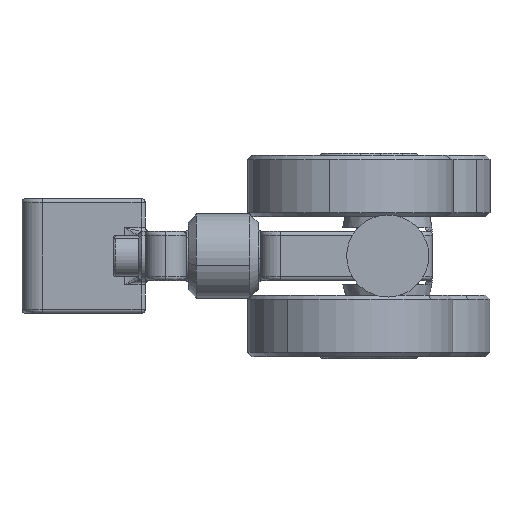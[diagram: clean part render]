
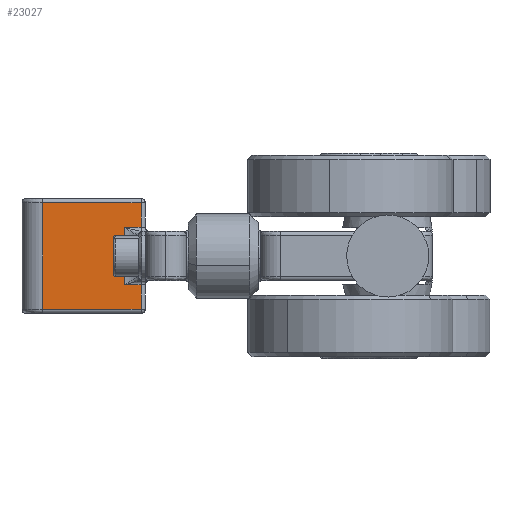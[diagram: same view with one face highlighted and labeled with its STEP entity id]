
A CAD part, left-side view. The second image highlights one B-rep face of the part: STEP entity #23027.
In plain terms, the highlighted planar face has unit normal (-1, 0, 0).
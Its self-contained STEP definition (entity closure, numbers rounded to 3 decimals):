
#1478 = CARTESIAN_POINT ( 'NONE',  ( 25., 109.256, 7. ) ) ;
#3511 = EDGE_CURVE ( 'NONE', #28250, #45553, #43561, .T. ) ;
#5006 = ORIENTED_EDGE ( 'NONE', *, *, #16284, .F. ) ;
#5873 = LINE ( 'NONE', #24484, #40792 ) ;
#6441 = VECTOR ( 'NONE', #41953, 1000. ) ;
#6757 = CARTESIAN_POINT ( 'NONE',  ( 25., 109.256, 1. ) ) ;
#7895 = DIRECTION ( 'NONE',  ( 0., 1., 0. ) ) ;
#8108 = VERTEX_POINT ( 'NONE', #48087 ) ;
#8881 = DIRECTION ( 'NONE',  ( 0., 0., -1. ) ) ;
#12473 = VECTOR ( 'NONE', #51662, 1000. ) ;
#13282 = VECTOR ( 'NONE', #42765, 1000. ) ;
#16284 = EDGE_CURVE ( 'NONE', #8108, #51747, #24927, .T. ) ;
#16882 = CARTESIAN_POINT ( 'NONE',  ( 25., 71., -18.5 ) ) ;
#17451 = LINE ( 'NONE', #1478, #6441 ) ;
#18322 = DIRECTION ( 'NONE',  ( 0., 0., -1. ) ) ;
#18813 = EDGE_CURVE ( 'NONE', #37022, #8108, #46046, .T. ) ;
#20745 = EDGE_CURVE ( 'NONE', #51747, #28250, #5873, .T. ) ;
#21099 = EDGE_CURVE ( 'NONE', #50964, #34205, #32352, .T. ) ;
#21295 = CARTESIAN_POINT ( 'NONE',  ( 25., 75., -13. ) ) ;
#22063 = VECTOR ( 'NONE', #35659, 1000. ) ;
#23027 = ADVANCED_FACE ( 'NONE', ( #24375 ), #34725, .F. ) ;
#23433 = CARTESIAN_POINT ( 'NONE',  ( 25., 75., 1. ) ) ;
#23802 = ORIENTED_EDGE ( 'NONE', *, *, #18813, .F. ) ;
#24096 = CARTESIAN_POINT ( 'NONE',  ( 25., 71., 7. ) ) ;
#24375 = FACE_OUTER_BOUND ( 'NONE', #49355, .T. ) ;
#24484 = CARTESIAN_POINT ( 'NONE',  ( 25., 109.256, -19. ) ) ;
#24927 = LINE ( 'NONE', #51368, #13282 ) ;
#25343 = ORIENTED_EDGE ( 'NONE', *, *, #44082, .F. ) ;
#26028 = ORIENTED_EDGE ( 'NONE', *, *, #20745, .F. ) ;
#26733 = CARTESIAN_POINT ( 'NONE',  ( 25., 71., -19. ) ) ;
#28250 = VERTEX_POINT ( 'NONE', #34523 ) ;
#28397 = EDGE_CURVE ( 'NONE', #37022, #34205, #47942, .T. ) ;
#28826 = CARTESIAN_POINT ( 'NONE',  ( 25., 71., 1. ) ) ;
#30926 = CARTESIAN_POINT ( 'NONE',  ( 25., 109.256, -13. ) ) ;
#31696 = DIRECTION ( 'NONE',  ( 0., 0., 1. ) ) ;
#32352 = LINE ( 'NONE', #6757, #22063 ) ;
#32448 = VERTEX_POINT ( 'NONE', #24096 ) ;
#33708 = VECTOR ( 'NONE', #8881, 1000. ) ;
#34205 = VERTEX_POINT ( 'NONE', #23433 ) ;
#34523 = CARTESIAN_POINT ( 'NONE',  ( 25., 95., -19. ) ) ;
#34725 = PLANE ( 'NONE',  #49341 ) ;
#35335 = CARTESIAN_POINT ( 'NONE',  ( 25., 95., 7. ) ) ;
#35659 = DIRECTION ( 'NONE',  ( 0., 1., 0. ) ) ;
#37014 = ORIENTED_EDGE ( 'NONE', *, *, #37632, .F. ) ;
#37022 = VERTEX_POINT ( 'NONE', #21295 ) ;
#37632 = EDGE_CURVE ( 'NONE', #45553, #32448, #17451, .T. ) ;
#40792 = VECTOR ( 'NONE', #7895, 1000. ) ;
#41953 = DIRECTION ( 'NONE',  ( 0., -1., 0. ) ) ;
#42321 = CARTESIAN_POINT ( 'NONE',  ( 25., 109.256, -18.5 ) ) ;
#42765 = DIRECTION ( 'NONE',  ( 0., 0., -1. ) ) ;
#43420 = VECTOR ( 'NONE', #47332, 1000. ) ;
#43561 = LINE ( 'NONE', #52639, #45545 ) ;
#44082 = EDGE_CURVE ( 'NONE', #32448, #50964, #46015, .T. ) ;
#44300 = ORIENTED_EDGE ( 'NONE', *, *, #28397, .T. ) ;
#44765 = ORIENTED_EDGE ( 'NONE', *, *, #21099, .F. ) ;
#45545 = VECTOR ( 'NONE', #31696, 1000. ) ;
#45553 = VERTEX_POINT ( 'NONE', #35335 ) ;
#46015 = LINE ( 'NONE', #16882, #33708 ) ;
#46046 = LINE ( 'NONE', #30926, #12473 ) ;
#46634 = DIRECTION ( 'NONE',  ( 1., 0., 0. ) ) ;
#47332 = DIRECTION ( 'NONE',  ( 0., 0., 1. ) ) ;
#47499 = CARTESIAN_POINT ( 'NONE',  ( 25., 75., -18.5 ) ) ;
#47942 = LINE ( 'NONE', #47499, #43420 ) ;
#48087 = CARTESIAN_POINT ( 'NONE',  ( 25., 71., -13. ) ) ;
#48561 = ORIENTED_EDGE ( 'NONE', *, *, #3511, .F. ) ;
#49341 = AXIS2_PLACEMENT_3D ( 'NONE', #42321, #46634, #18322 ) ;
#49355 = EDGE_LOOP ( 'NONE', ( #37014, #48561, #26028, #5006, #23802, #44300, #44765, #25343 ) ) ;
#50964 = VERTEX_POINT ( 'NONE', #28826 ) ;
#51368 = CARTESIAN_POINT ( 'NONE',  ( 25., 71., -18.5 ) ) ;
#51662 = DIRECTION ( 'NONE',  ( 0., -1., 0. ) ) ;
#51747 = VERTEX_POINT ( 'NONE', #26733 ) ;
#52639 = CARTESIAN_POINT ( 'NONE',  ( 25., 95., -18.5 ) ) ;
